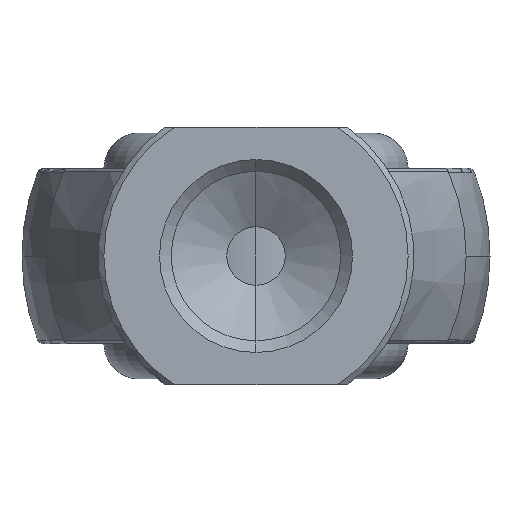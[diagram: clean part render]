
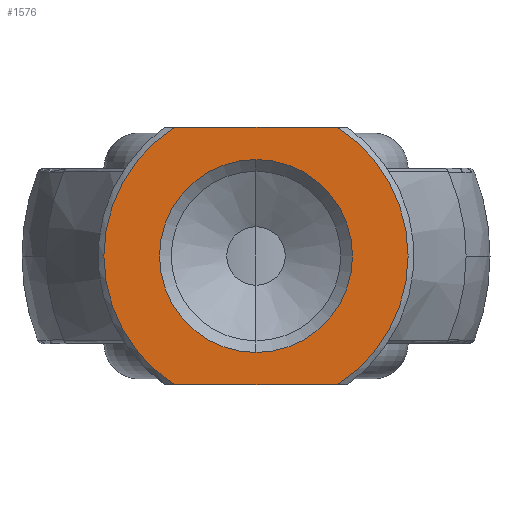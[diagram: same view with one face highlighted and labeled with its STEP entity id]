
A CAD part, left-side view. The second image highlights one B-rep face of the part: STEP entity #1576.
In plain terms, the highlighted planar face has unit normal (-1, 0, 0).
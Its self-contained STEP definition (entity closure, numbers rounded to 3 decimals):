
#9 = DIRECTION ( 'NONE',  ( 0., 1., 0. ) ) ;
#10 = CIRCLE ( 'NONE', #1439, 8.25 ) ;
#13 = CIRCLE ( 'NONE', #2512, 8.25 ) ;
#16 = ORIENTED_EDGE ( 'NONE', *, *, #827, .T. ) ;
#55 = CARTESIAN_POINT ( 'NONE',  ( 0., 6.928, 11. ) ) ;
#58 = CARTESIAN_POINT ( 'NONE',  ( 0., 7.826, -11. ) ) ;
#79 = CARTESIAN_POINT ( 'NONE',  ( 0., 0., 8.25 ) ) ;
#114 = CARTESIAN_POINT ( 'NONE',  ( 0., -6.928, 11. ) ) ;
#197 = VERTEX_POINT ( 'NONE', #449 ) ;
#257 = CARTESIAN_POINT ( 'NONE',  ( 0., 0., 0. ) ) ;
#319 = DIRECTION ( 'NONE',  ( 0., 0., -1. ) ) ;
#370 = DIRECTION ( 'NONE',  ( -1., 0., 0. ) ) ;
#379 = ORIENTED_EDGE ( 'NONE', *, *, #1896, .T. ) ;
#444 = LINE ( 'NONE', #58, #1169 ) ;
#449 = CARTESIAN_POINT ( 'NONE',  ( 0., 6.928, -11. ) ) ;
#453 = AXIS2_PLACEMENT_3D ( 'NONE', #2357, #370, #1357 ) ;
#460 = ORIENTED_EDGE ( 'NONE', *, *, #1118, .F. ) ;
#527 = EDGE_CURVE ( 'NONE', #2547, #1201, #10, .T. ) ;
#617 = VERTEX_POINT ( 'NONE', #55 ) ;
#671 = VERTEX_POINT ( 'NONE', #1668 ) ;
#732 = DIRECTION ( 'NONE',  ( 0., 0., -1. ) ) ;
#796 = CIRCLE ( 'NONE', #1340, 13. ) ;
#798 = ORIENTED_EDGE ( 'NONE', *, *, #527, .T. ) ;
#827 = EDGE_CURVE ( 'NONE', #1201, #2547, #13, .T. ) ;
#921 = CIRCLE ( 'NONE', #453, 13. ) ;
#957 = AXIS2_PLACEMENT_3D ( 'NONE', #1806, #985, #9 ) ;
#985 = DIRECTION ( 'NONE',  ( 1., 0., 0. ) ) ;
#1031 = FACE_OUTER_BOUND ( 'NONE', #1283, .T. ) ;
#1067 = CARTESIAN_POINT ( 'NONE',  ( 0., 0., -8.25 ) ) ;
#1108 = DIRECTION ( 'NONE',  ( 0., -1., 0. ) ) ;
#1118 = EDGE_CURVE ( 'NONE', #617, #1911, #1474, .T. ) ;
#1166 = VECTOR ( 'NONE', #1108, 1000. ) ;
#1169 = VECTOR ( 'NONE', #2198, 1000. ) ;
#1201 = VERTEX_POINT ( 'NONE', #79 ) ;
#1204 = PLANE ( 'NONE',  #957 ) ;
#1283 = EDGE_LOOP ( 'NONE', ( #2605, #379, #460, #1307 ) ) ;
#1307 = ORIENTED_EDGE ( 'NONE', *, *, #2586, .T. ) ;
#1316 = CARTESIAN_POINT ( 'NONE',  ( 0., 0., 0. ) ) ;
#1340 = AXIS2_PLACEMENT_3D ( 'NONE', #1316, #2124, #319 ) ;
#1357 = DIRECTION ( 'NONE',  ( 0., 0., -1. ) ) ;
#1439 = AXIS2_PLACEMENT_3D ( 'NONE', #257, #2079, #2196 ) ;
#1474 = LINE ( 'NONE', #2517, #1166 ) ;
#1576 = ADVANCED_FACE ( 'NONE', ( #2225, #1031 ), #1204, .F. ) ;
#1668 = CARTESIAN_POINT ( 'NONE',  ( 0., -6.928, -11. ) ) ;
#1723 = CARTESIAN_POINT ( 'NONE',  ( 0., 0., 0. ) ) ;
#1806 = CARTESIAN_POINT ( 'NONE',  ( 0., 7.25, 0. ) ) ;
#1896 = EDGE_CURVE ( 'NONE', #671, #1911, #796, .T. ) ;
#1911 = VERTEX_POINT ( 'NONE', #114 ) ;
#1986 = EDGE_CURVE ( 'NONE', #671, #197, #444, .T. ) ;
#2079 = DIRECTION ( 'NONE',  ( 1., 0., 0. ) ) ;
#2124 = DIRECTION ( 'NONE',  ( -1., 0., 0. ) ) ;
#2131 = DIRECTION ( 'NONE',  ( 1., 0., 0. ) ) ;
#2196 = DIRECTION ( 'NONE',  ( 0., 0., -1. ) ) ;
#2198 = DIRECTION ( 'NONE',  ( 0., 1., 0. ) ) ;
#2212 = EDGE_LOOP ( 'NONE', ( #16, #798 ) ) ;
#2225 = FACE_BOUND ( 'NONE', #2212, .T. ) ;
#2357 = CARTESIAN_POINT ( 'NONE',  ( 0., 0., 0. ) ) ;
#2512 = AXIS2_PLACEMENT_3D ( 'NONE', #1723, #2131, #732 ) ;
#2517 = CARTESIAN_POINT ( 'NONE',  ( 0., 7.826, 11. ) ) ;
#2547 = VERTEX_POINT ( 'NONE', #1067 ) ;
#2586 = EDGE_CURVE ( 'NONE', #617, #197, #921, .T. ) ;
#2605 = ORIENTED_EDGE ( 'NONE', *, *, #1986, .F. ) ;
